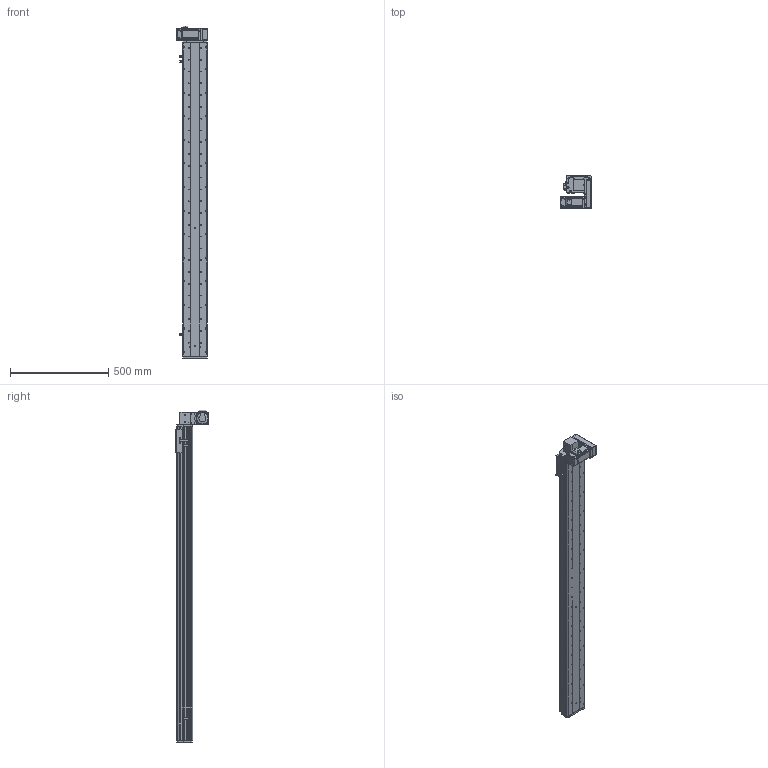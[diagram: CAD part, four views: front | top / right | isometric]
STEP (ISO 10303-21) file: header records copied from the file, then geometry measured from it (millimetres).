
FILE_DESCRIPTION (( 'STEP AP214' ), '1' );
FILE_NAME ('KSD125B-S1400-MLD-CM.STEP', '2017-10-21T03:03:43', ( '微软用户' ), ( '微软中国' ), 'SwSTEP 2.0', 'SolidWorks 2014', '' );
FILE_SCHEMA (( 'AUTOMOTIVE_DESIGN' ));
Length unit declared in the file: millimetre
Products named in the file (17): MHMD042G1CA_2_03; KSD125模组同步带-防撞垫2; 覜茼え68遵圉猾敕; U倰嫖萇假蚾璃; U倰嫖萇EEㄜSX672; KSD125模组同步带-防撞垫1; 前端板-125宽模组同步带; 125模组同步带-尾端板1; KSD125模组同步带-滑动座1; KSD125B-S1400-MLD-CM; 悵誘欶奻狟殏; 100宽马达安装板连板上下折丝杆同步带; HTPA30S3M150_A_H6_a佪裝蚚; HTPA30S3M150_A_H6_a萇儂蚚; 100宽马达安装板同步带左; KSD125模组1400行程同步带-防尘盖; 125模组1400行程同步带-底板
Assembly tree (20 placements, depth 2):
  KSD125B-S1400-MLD-CM
    KSD125模组同步带-滑动座1
    125模组同步带-尾端板1
    前端板-125宽模组同步带
    KSD125模组同步带-防撞垫1
    U倰嫖萇EEㄜSX672  x3
    U倰嫖萇假蚾璃  x3
    覜茼え68遵圉猾敕
    KSD125模组同步带-防撞垫2
    MHMD042G1CA_2_03
    125模组1400行程同步带-底板
    KSD125模组1400行程同步带-防尘盖
    100宽马达安装板同步带左
    HTPA30S3M150_A_H6_a萇儂蚚
    HTPA30S3M150_A_H6_a佪裝蚚
    100宽马达安装板连板上下折丝杆同步带
    悵誘欶奻狟殏
Bounding box: 155 x 166.5 x 1689 mm (x, y, z)
Volume: 4991567.5 mm3; surface area: 1658068.1 mm2
Topology: 19 solids, 22 shells, 2379 faces, 6901 edges, 4562 vertices
Faces by surface type: cylinder 1516, plane 736, cone 105, bspline 22
Entity records: 85151 total; most frequent: CARTESIAN_POINT 16767, DIRECTION 13226, ORIENTED_EDGE 12322, EDGE_CURVE 6239, AXIS2_PLACEMENT_3D 5133, VERTEX_POINT 4154, CIRCLE 2972, VECTOR 2960
